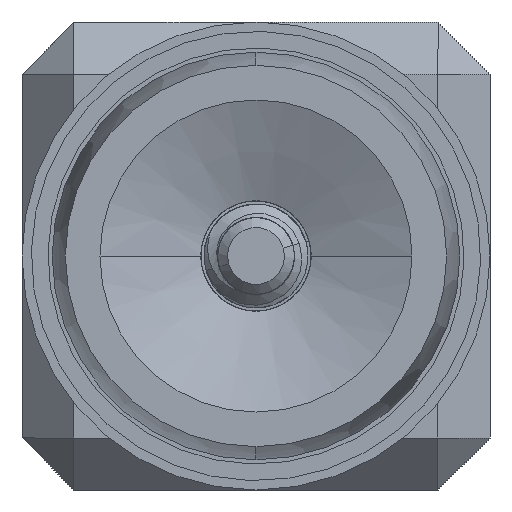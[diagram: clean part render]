
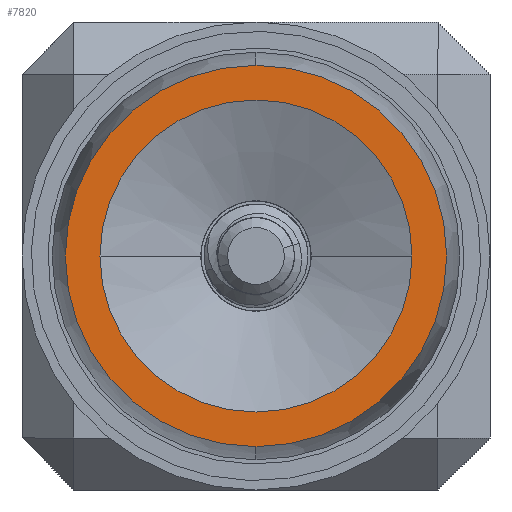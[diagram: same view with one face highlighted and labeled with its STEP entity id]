
A CAD part, left-side view. The second image highlights one B-rep face of the part: STEP entity #7820.
In plain terms, the highlighted planar face has unit normal (-1, 0, 0).
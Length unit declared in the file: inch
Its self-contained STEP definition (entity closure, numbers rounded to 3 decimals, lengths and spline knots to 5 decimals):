
#5 = VERTEX_POINT ( 'NONE', #10979 ) ;
#11 = AXIS2_PLACEMENT_3D ( 'NONE', #5422, #12022, #4300 ) ;
#28 = DIRECTION ( 'NONE',  ( 0., 0., 1. ) ) ;
#71 = DIRECTION ( 'NONE',  ( 1., 0., 0. ) ) ;
#207 = DIRECTION ( 'NONE',  ( 0., 0., 1. ) ) ;
#483 = CARTESIAN_POINT ( 'NONE',  ( -2.25, 0., 0. ) ) ;
#1490 = VERTEX_POINT ( 'NONE', #3017 ) ;
#1500 = ORIENTED_EDGE ( 'NONE', *, *, #2238, .T. ) ;
#2238 = EDGE_CURVE ( 'NONE', #1490, #9417, #13771, .T. ) ;
#2896 = CARTESIAN_POINT ( 'NONE',  ( -2.25, 0.5625, 0. ) ) ;
#3017 = CARTESIAN_POINT ( 'NONE',  ( -2.25, 0., 0.45825 ) ) ;
#3023 = ORIENTED_EDGE ( 'NONE', *, *, #12861, .T. ) ;
#3072 = AXIS2_PLACEMENT_3D ( 'NONE', #4629, #12332, #207 ) ;
#3745 = CIRCLE ( 'NONE', #11, 0.375 ) ;
#4300 = DIRECTION ( 'NONE',  ( 0., 1., 0. ) ) ;
#4549 = CARTESIAN_POINT ( 'NONE',  ( -2.25, 0., 0. ) ) ;
#4619 = ORIENTED_EDGE ( 'NONE', *, *, #10924, .T. ) ;
#4629 = CARTESIAN_POINT ( 'NONE',  ( -2.25, 0., 0. ) ) ;
#5125 = DIRECTION ( 'NONE',  ( 0., 1., 0. ) ) ;
#5422 = CARTESIAN_POINT ( 'NONE',  ( -2.25, 0., 0. ) ) ;
#7384 = AXIS2_PLACEMENT_3D ( 'NONE', #483, #11235, #5125 ) ;
#7469 = CIRCLE ( 'NONE', #7384, 0.375 ) ;
#7713 = AXIS2_PLACEMENT_3D ( 'NONE', #4549, #9993, #28 ) ;
#7820 = ADVANCED_FACE ( 'NONE', ( #11975, #9045 ), #11720, .F. ) ;
#8479 = CARTESIAN_POINT ( 'NONE',  ( -2.25, 0., -0.45825 ) ) ;
#8517 = DIRECTION ( 'NONE',  ( 0., 0., -1. ) ) ;
#9045 = FACE_BOUND ( 'NONE', #11455, .T. ) ;
#9417 = VERTEX_POINT ( 'NONE', #8479 ) ;
#9778 = ORIENTED_EDGE ( 'NONE', *, *, #9966, .T. ) ;
#9966 = EDGE_CURVE ( 'NONE', #9417, #1490, #10016, .T. ) ;
#9993 = DIRECTION ( 'NONE',  ( -1., 0., 0. ) ) ;
#10016 = CIRCLE ( 'NONE', #7713, 0.45825 ) ;
#10924 = EDGE_CURVE ( 'NONE', #13041, #5, #7469, .T. ) ;
#10979 = CARTESIAN_POINT ( 'NONE',  ( -2.25, 0.375, 0. ) ) ;
#11120 = AXIS2_PLACEMENT_3D ( 'NONE', #2896, #71, #8517 ) ;
#11235 = DIRECTION ( 'NONE',  ( 1., 0., 0. ) ) ;
#11455 = EDGE_LOOP ( 'NONE', ( #3023, #4619 ) ) ;
#11720 = PLANE ( 'NONE',  #11120 ) ;
#11826 = CARTESIAN_POINT ( 'NONE',  ( -2.25, -0.375, 0. ) ) ;
#11975 = FACE_OUTER_BOUND ( 'NONE', #12374, .T. ) ;
#12022 = DIRECTION ( 'NONE',  ( 1., 0., 0. ) ) ;
#12332 = DIRECTION ( 'NONE',  ( -1., 0., 0. ) ) ;
#12374 = EDGE_LOOP ( 'NONE', ( #1500, #9778 ) ) ;
#12861 = EDGE_CURVE ( 'NONE', #5, #13041, #3745, .T. ) ;
#13041 = VERTEX_POINT ( 'NONE', #11826 ) ;
#13771 = CIRCLE ( 'NONE', #3072, 0.45825 ) ;
